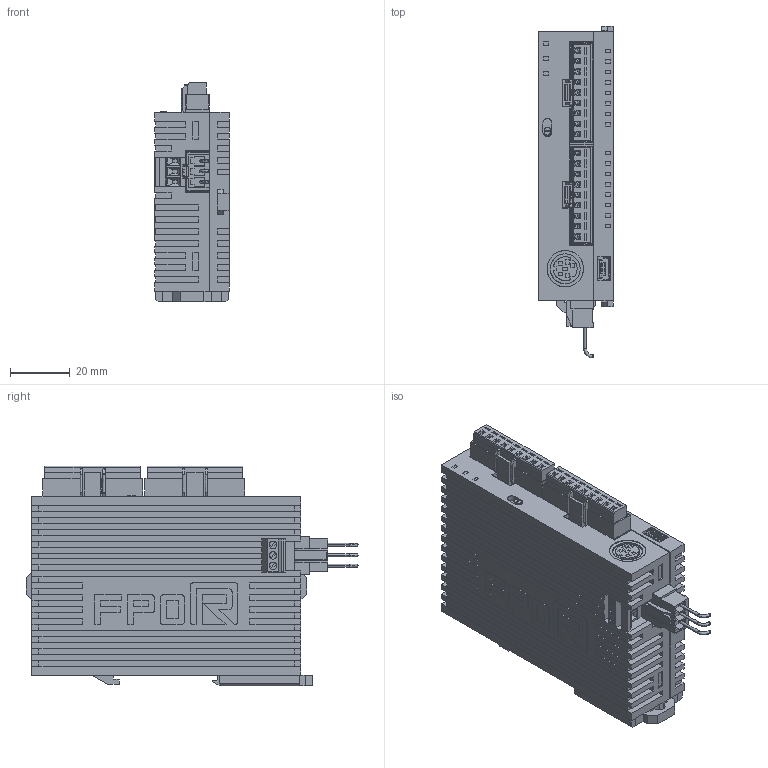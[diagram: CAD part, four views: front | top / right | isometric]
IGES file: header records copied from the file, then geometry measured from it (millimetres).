
Start section: SolidWorks IGES file using analytic representation for surfaces
Global section: file name: C:\catalog\FP0R_catalog\afp0rc14crm\130628_afp0rc14crm.IGS; native system: SolidWorks 2010; preprocessor: SolidWorks 2010; author: ek1676; date: 130628.114836; units: millimetre
Bounding box: 25 x 111.2 x 73.6 mm (x, y, z)
Surface area: 30882.8 mm2 (no closed solid volume)
Topology: 0 solids, 0 shells, 1589 faces, 9850 edges, 9850 vertices
Faces by surface type: bspline 1514, revolution 75
